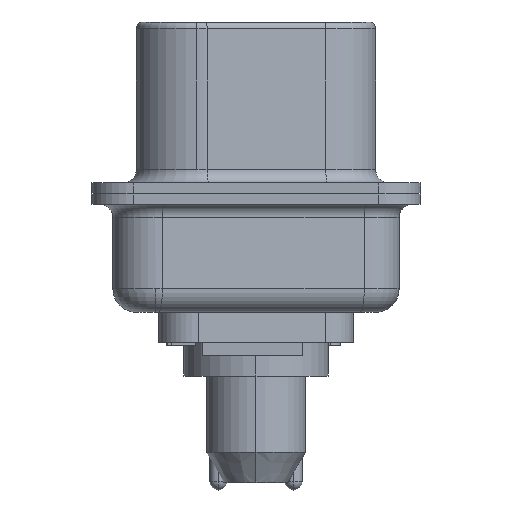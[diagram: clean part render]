
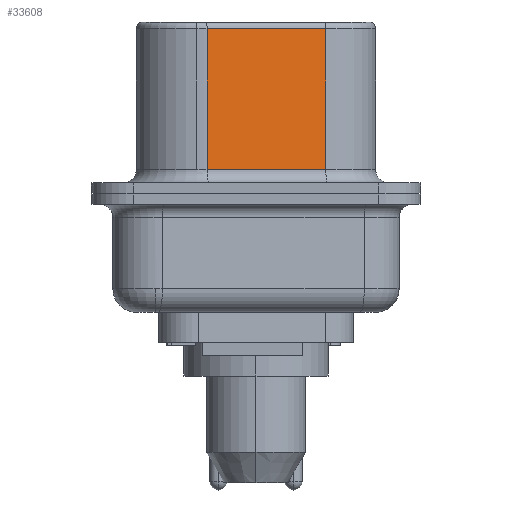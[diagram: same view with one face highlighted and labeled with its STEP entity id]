
A CAD part, left-side view. The second image highlights one B-rep face of the part: STEP entity #33608.
In plain terms, the highlighted planar face has unit normal (-0.985, -0.174, 0).
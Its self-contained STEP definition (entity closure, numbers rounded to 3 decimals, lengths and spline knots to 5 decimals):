
#2890 = LINE ( 'NONE', #3974, #2892 ) ;
#2892 = VECTOR ( 'NONE', #3969, 39.37008 ) ;
#3969 = DIRECTION ( 'NONE',  ( 0., 0., -1. ) ) ;
#3974 = CARTESIAN_POINT ( 'NONE',  ( -1.0905, 0.07287, 0.256 ) ) ;
#7694 = CARTESIAN_POINT ( 'NONE',  ( -1.05929, -0.10413, 0.256 ) ) ;
#7695 = DIRECTION ( 'NONE',  ( 0., 0., -1. ) ) ;
#7699 = CARTESIAN_POINT ( 'NONE',  ( -1.05929, -0.10413, 0.246 ) ) ;
#7703 = DIRECTION ( 'NONE',  ( -0.174, 0.985, 0. ) ) ;
#7704 = CARTESIAN_POINT ( 'NONE',  ( -1.05929, -0.10413, 0.036 ) ) ;
#7705 = DIRECTION ( 'NONE',  ( 0.174, -0.985, 0. ) ) ;
#11145 = LINE ( 'NONE', #7699, #11169 ) ;
#11160 = LINE ( 'NONE', #7694, #11164 ) ;
#11164 = VECTOR ( 'NONE', #7695, 39.37008 ) ;
#11166 = LINE ( 'NONE', #7704, #11173 ) ;
#11169 = VECTOR ( 'NONE', #7703, 39.37008 ) ;
#11173 = VECTOR ( 'NONE', #7705, 39.37008 ) ;
#18082 = AXIS2_PLACEMENT_3D ( 'NONE', #32483, #32492, #32493 ) ;
#18382 = CARTESIAN_POINT ( 'NONE',  ( -1.0905, 0.07287, 0.246 ) ) ;
#19076 = CARTESIAN_POINT ( 'NONE',  ( -1.0905, 0.07287, 0.036 ) ) ;
#20902 = CARTESIAN_POINT ( 'NONE',  ( -1.05929, -0.10413, 0.246 ) ) ;
#20906 = CARTESIAN_POINT ( 'NONE',  ( -1.05929, -0.10413, 0.036 ) ) ;
#21587 = EDGE_LOOP ( 'NONE', ( #25925, #25924, #25923, #25922 ) ) ;
#24997 = EDGE_CURVE ( 'NONE', #30313, #31063, #2890, .T. ) ;
#25922 = ORIENTED_EDGE ( 'NONE', *, *, #29986, .T. ) ;
#25923 = ORIENTED_EDGE ( 'NONE', *, *, #24997, .T. ) ;
#25924 = ORIENTED_EDGE ( 'NONE', *, *, #29985, .T. ) ;
#25925 = ORIENTED_EDGE ( 'NONE', *, *, #29984, .F. ) ;
#29210 = VERTEX_POINT ( 'NONE', #20902 ) ;
#29215 = VERTEX_POINT ( 'NONE', #20906 ) ;
#29984 = EDGE_CURVE ( 'NONE', #29210, #29215, #11160, .T. ) ;
#29985 = EDGE_CURVE ( 'NONE', #29210, #30313, #11145, .T. ) ;
#29986 = EDGE_CURVE ( 'NONE', #31063, #29215, #11166, .T. ) ;
#30313 = VERTEX_POINT ( 'NONE', #18382 ) ;
#31063 = VERTEX_POINT ( 'NONE', #19076 ) ;
#32483 = CARTESIAN_POINT ( 'NONE',  ( -1.05929, -0.10413, 0.256 ) ) ;
#32489 = PLANE ( 'NONE',  #18082 ) ;
#32492 = DIRECTION ( 'NONE',  ( 0.985, 0.174, 0. ) ) ;
#32493 = DIRECTION ( 'NONE',  ( -0.174, 0.985, 0. ) ) ;
#33608 = ADVANCED_FACE ( 'NONE', ( #34283 ), #32489, .F. ) ;
#34283 = FACE_OUTER_BOUND ( 'NONE', #21587, .T. ) ;
